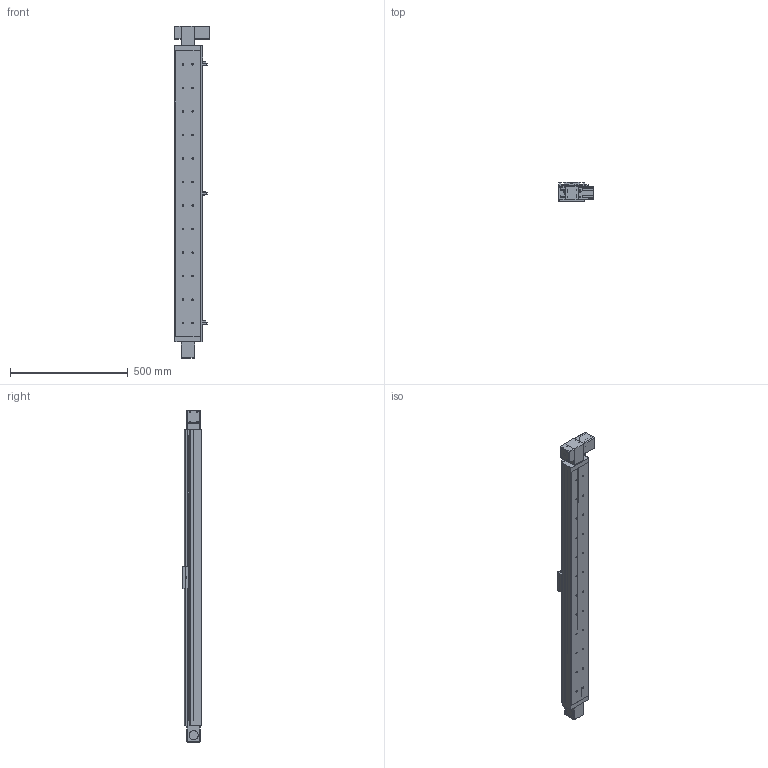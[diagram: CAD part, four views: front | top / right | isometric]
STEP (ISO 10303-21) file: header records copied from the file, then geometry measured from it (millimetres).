
FILE_DESCRIPTION((''),'2;1');
FILE_NAME('E:\uia actuator\UIA actuator 3d- 2015\Belt drive actuator\UIA110BR12(15)DC\UIA110BR12(15)DC-STEP FILE\UIA110BR12(15) stp file 13May16\UIA110BR12(15)DC-1100-M23-P13-C10-S.stp','2016-05-16T09:22:05',('h029'),(''),'Autodesk Inventor 11','Autodesk Inventor 11','');
FILE_SCHEMA(('AUTOMOTIVE_DESIGN { 1 0 10303 214 1 1 1 1 }'));
Length unit declared in the file: millimetre
Products named in the file (11): UIA110BR12(15)DC-1100; UIA110BR12(15)DC-1100-body; UIA110BR12(15)DC-1100-Sensor rail; UIA110B-Carriage; UIA110B- Sensor Flag; UIA110B-Cover; SOH-32C; SOH-32C-3; SOH-32C-1; SOH-32C-2; Motor mount
Assembly tree (10 placements, depth 3):
  UIA110BR12(15)DC-1100
    UIA110BR12(15)DC-1100-body
    UIA110BR12(15)DC-1100-Sensor rail
    UIA110B-Carriage
    UIA110B- Sensor Flag
    UIA110B-Cover
    SOH-32C
      SOH-32C-3
      SOH-32C-1
      SOH-32C-2
    Motor mount
Bounding box: 152 x 81 x 1411 mm (x, y, z)
Volume: 4202121.2 mm3; surface area: 1223816.9 mm2
Topology: 9 solids, 13 shells, 772 faces, 2170 edges, 1388 vertices
Faces by surface type: plane 479, cylinder 203, cone 42, bspline 40, sphere 8
Full cylindrical faces by diameter (mm): 2.459 x4, 3 x2, 3.242 x8, 3.5 x4, 4 x10, 4.5 x4, 4.917 x8, 5 x2, 6.35 x1, 6.5 x24, 7.5 x4, 10 x3, 11 x24, 12 x1, 20 x2, 32 x3, 37 x1, 38.1 x1, 39 x2, 43.5 x1, 46 x2
Entity records: 25978 total; most frequent: CARTESIAN_POINT 6713, DIRECTION 3939, ORIENTED_EDGE 3750, EDGE_CURVE 1875, AXIS2_PLACEMENT_3D 1360, VERTEX_POINT 1288, VECTOR 1219, LINE 1219
